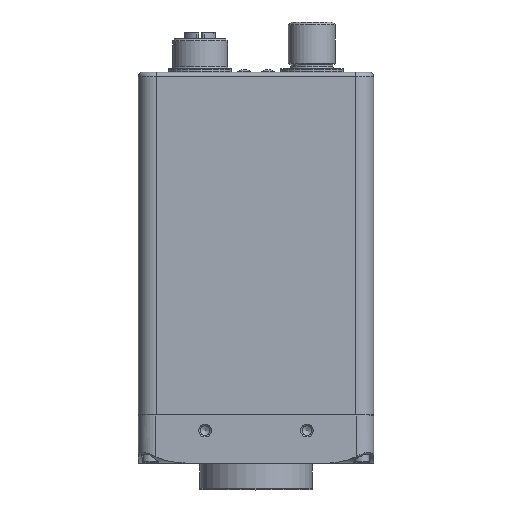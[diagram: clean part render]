
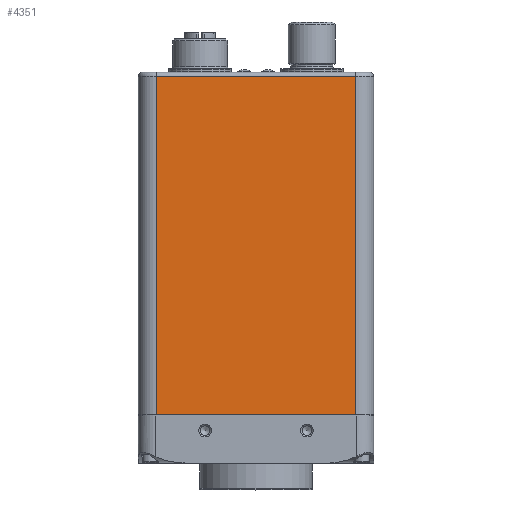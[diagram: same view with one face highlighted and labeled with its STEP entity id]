
A CAD part, top view. The second image highlights one B-rep face of the part: STEP entity #4351.
In plain terms, the highlighted planar face has unit normal (0, 0, 1).
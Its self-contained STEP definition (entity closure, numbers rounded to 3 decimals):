
#4351 = ADVANCED_FACE( '', ( #9345 ), #9346, .F. );
#9345 = FACE_OUTER_BOUND( '', #16240, .T. );
#9346 = PLANE( '', #16241 );
#16240 = EDGE_LOOP( '', ( #28432, #28433, #28434, #28435 ) );
#16241 = AXIS2_PLACEMENT_3D( '', #28436, #28437, #28438 );
#28432 = ORIENTED_EDGE( '', *, *, #33395, .F. );
#28433 = ORIENTED_EDGE( '', *, *, #32355, .T. );
#28434 = ORIENTED_EDGE( '', *, *, #31661, .T. );
#28435 = ORIENTED_EDGE( '', *, *, #32389, .T. );
#28436 = CARTESIAN_POINT( '', ( -25.488, 88.545, 29.988 ) );
#28437 = DIRECTION( '', ( 0., 0., -1. ) );
#28438 = DIRECTION( '', ( 0., 1., 0. ) );
#31661 = EDGE_CURVE( '', #37608, #37609, #37610, .T. );
#32355 = EDGE_CURVE( '', #38577, #37608, #38578, .F. );
#32389 = EDGE_CURVE( '', #37609, #38619, #38621, .T. );
#33395 = EDGE_CURVE( '', #38577, #38619, #39814, .T. );
#37608 = VERTEX_POINT( '', #46853 );
#37609 = VERTEX_POINT( '', #46854 );
#37610 = LINE( '', #46855, #46856 );
#38577 = VERTEX_POINT( '', #48747 );
#38578 = LINE( '', #48748, #48749 );
#38619 = VERTEX_POINT( '', #48803 );
#38621 = LINE( '', #48805, #48806 );
#39814 = LINE( '', #50815, #50816 );
#46853 = CARTESIAN_POINT( '', ( -25.488, 87.545, 29.988 ) );
#46854 = CARTESIAN_POINT( '', ( -25.488, 1.245, 29.988 ) );
#46855 = CARTESIAN_POINT( '', ( -25.488, 88.545, 29.988 ) );
#46856 = VECTOR( '', #54452, 1000. );
#48747 = CARTESIAN_POINT( '', ( 25.488, 87.545, 29.988 ) );
#48748 = CARTESIAN_POINT( '', ( -25.488, 87.545, 29.988 ) );
#48749 = VECTOR( '', #55344, 1000. );
#48803 = CARTESIAN_POINT( '', ( 25.488, 1.245, 29.988 ) );
#48805 = CARTESIAN_POINT( '', ( -25.488, 1.245, 29.988 ) );
#48806 = VECTOR( '', #55395, 1000. );
#50815 = CARTESIAN_POINT( '', ( 25.488, 88.545, 29.988 ) );
#50816 = VECTOR( '', #56214, 1000. );
#54452 = DIRECTION( '', ( 0., -1., 0. ) );
#55344 = DIRECTION( '', ( 1., 0., 0. ) );
#55395 = DIRECTION( '', ( 1., 0., 0. ) );
#56214 = DIRECTION( '', ( 0., -1., 0. ) );
